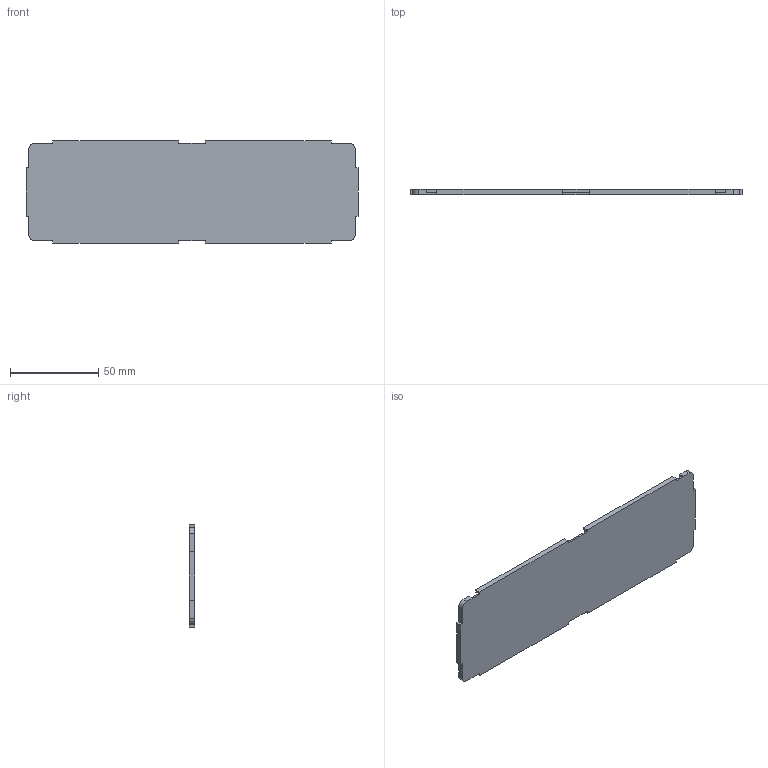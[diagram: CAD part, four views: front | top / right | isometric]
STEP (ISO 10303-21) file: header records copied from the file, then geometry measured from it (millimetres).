
FILE_DESCRIPTION (( 'STEP AP214' ), '1' );
FILE_NAME ('迖攫苤V1.2.STEP', '2022-12-03T11:10:48', ( '' ), ( '' ), 'SwSTEP 2.0', 'SolidWorks 2020', '' );
FILE_SCHEMA (( 'AUTOMOTIVE_DESIGN' ));
Length unit declared in the file: millimetre
Products named in the file (1): 迖攫苤V1.2
Bounding box: 188 x 3 x 58 mm (x, y, z)
Volume: 16417.5 mm3; surface area: 26284.1 mm2
Topology: 1 solids, 1 shells, 171 faces, 436 edges, 288 vertices
Faces by surface type: plane 167, cylinder 4
Entity records: 5088 total; most frequent: CARTESIAN_POINT 896, ORIENTED_EDGE 872, DIRECTION 788, EDGE_CURVE 436, LINE 428, VECTOR 428, VERTEX_POINT 288, EDGE_LOOP 192
